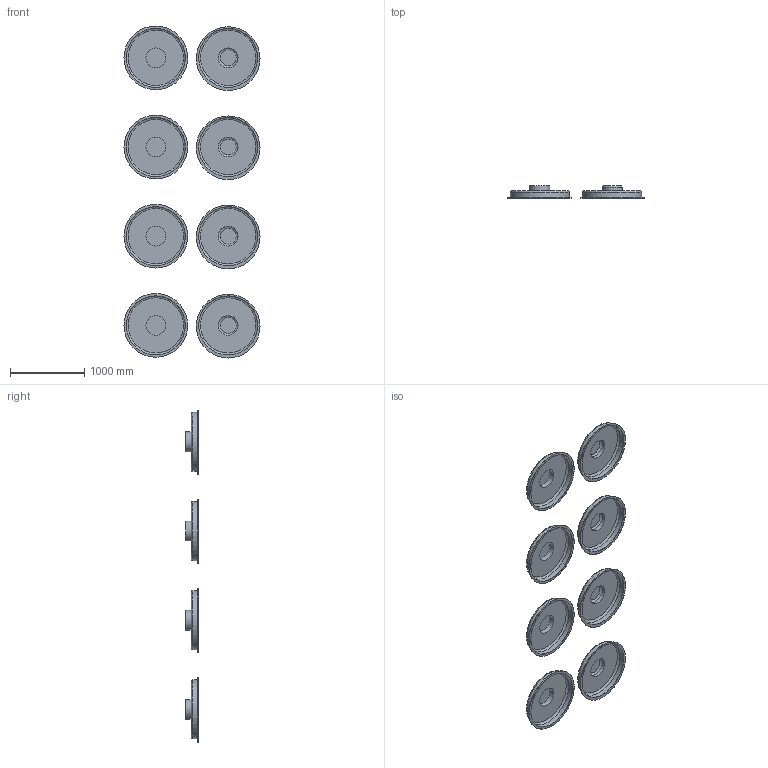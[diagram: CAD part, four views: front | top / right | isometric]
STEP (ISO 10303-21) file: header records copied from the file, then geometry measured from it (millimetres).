
FILE_DESCRIPTION(/* description */ (''),/* implementation_level */ '2;1');
FILE_NAME(/* name */ 'L:\DSGN\Revit Content\Mechanical Components\BAC\R2016\TSDC-II\TSDC-II-CO2-2x4-Front1.stp',/* time_stamp */ '2019-02-06T09:29:49+01:00',/* author */ ('jvandermieren'),/* organization */ (''),/* preprocessor_version */ 'ST-DEVELOPER v16.5',/* originating_system */ 'Autodesk Inventor 2017',/* authorisation */ '');
FILE_SCHEMA (('AUTOMOTIVE_DESIGN { 1 0 10303 214 3 1 1 }'));
Length unit declared in the file: inch
Products named in the file (1): TSDC-II-CO2-2X4-Front
Bounding box: 1830.83 x 166.37 x 4467.78 mm (x, y, z)
Volume: 4101104.8 mm3; surface area: 16500041.7 mm2
Topology: 8 solids, 18 shells, 76 faces, 112 edges, 68 vertices
Faces by surface type: plane 32, cylinder 32, torus 12
Full cylindrical faces by diameter (mm): 265.176 x8, 794.766 x16, 856.996 x8
Entity records: 6145 total; most frequent: DIRECTION 1014, CARTESIAN_POINT 994, ORIENTED_EDGE 880, EDGE_CURVE 432, EDGE_LOOP 368, AXIS2_PLACEMENT_3D 342, LINE 330, VECTOR 330
